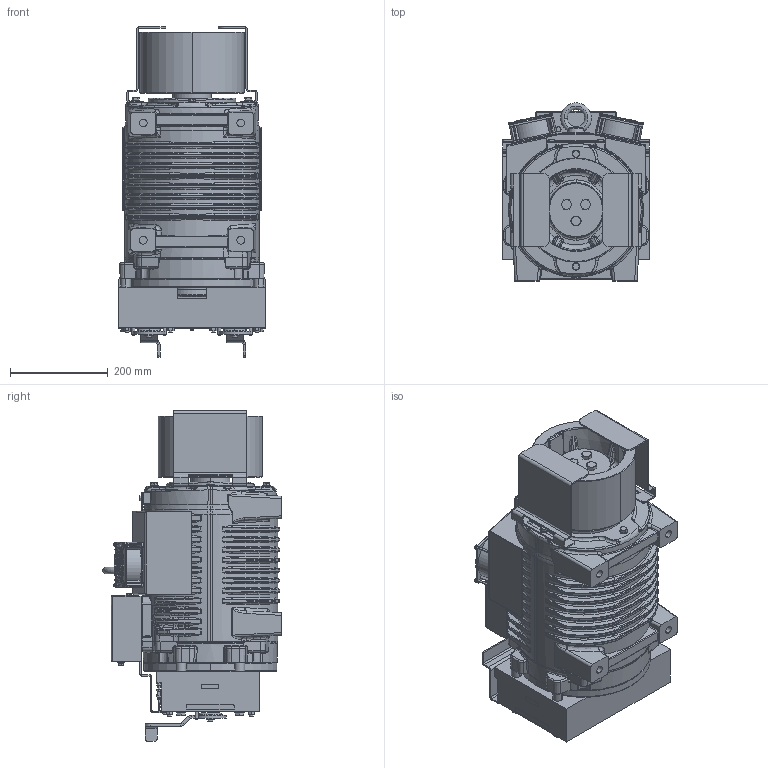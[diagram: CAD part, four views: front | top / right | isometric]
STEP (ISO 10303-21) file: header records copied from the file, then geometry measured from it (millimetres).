
FILE_DESCRIPTION((''),'2;1');
FILE_NAME('00358065_ASM','2020-01-15T',('furlanis'),('Sicor spa'),'CREO PARAMETRIC BY PTC INC, 2017170','CREO PARAMETRIC BY PTC INC, 2017170','');
FILE_SCHEMA(('CONFIG_CONTROL_DESIGN'));
Products named in the file (4): SG38; 00164072; 00279921; 00358065_ASM
Assembly tree (4 placements, depth 2):
  00358065_ASM
    SG38
    00164072  x2
    00279921
Bounding box: 300.4 x 365 x 676.52 mm (x, y, z)
Volume: 2806794 mm3; surface area: 2218004.5 mm2
Topology: 3 solids, 394 shells, 4390 faces, 14207 edges, 9851 vertices
Faces by surface type: plane 1621, cylinder 1096, bspline 817, torus 509, cone 305, sphere 40, revolution 2
Entity records: 240412 total; most frequent: CARTESIAN_POINT 129743, ORIENTED_EDGE 22053, DIRECTION 20395, EDGE_CURVE 14001, VERTEX_POINT 9755, AXIS2_PLACEMENT_3D 6935, VECTOR 6523, LINE 6523
